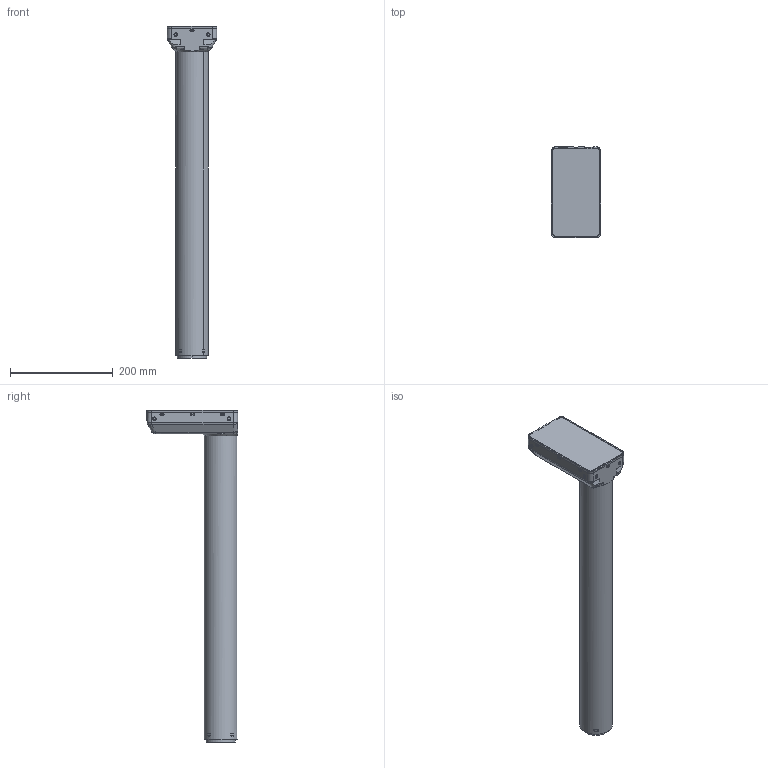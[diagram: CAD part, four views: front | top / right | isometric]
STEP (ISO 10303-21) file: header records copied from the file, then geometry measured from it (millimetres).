
FILE_DESCRIPTION((''),'2;1');
FILE_NAME('DL8_IC_SLAVE_ASM','2019-02-08T08:30:38',('bs'),(''),'CREO PARAMETRIC BY PTC INC, 2017260','CREO PARAMETRIC BY PTC INC, 2017260','');
FILE_SCHEMA(('AUTOMOTIVE_DESIGN { 1 0 10303 214 1 1 1 1 }'));
Length unit declared in the file: millimetre
Products named in the file (3): DL-IC_MOTORHUS_SLAVE_DL8; DL8_IP4; DL8_IC_SLAVE_ASM
Assembly tree (2 placements, depth 2):
  DL8_IC_SLAVE_ASM
    DL-IC_MOTORHUS_SLAVE_DL8
    DL8_IP4
Bounding box: 96.5 x 178.6 x 645 mm (x, y, z)
Volume: 2602913.8 mm3; surface area: 190195.1 mm2
Topology: 2 solids, 2 shells, 927 faces, 2595 edges, 1691 vertices
Faces by surface type: plane 365, cylinder 362, torus 92, bspline 60, cone 34, sphere 14
Entity records: 40771 total; most frequent: CARTESIAN_POINT 11513, ORIENTED_EDGE 5176, DIRECTION 4685, EDGE_CURVE 2588, AXIS2_PLACEMENT_3D 1762, VERTEX_POINT 1691, VECTOR 1161, LINE 1161
